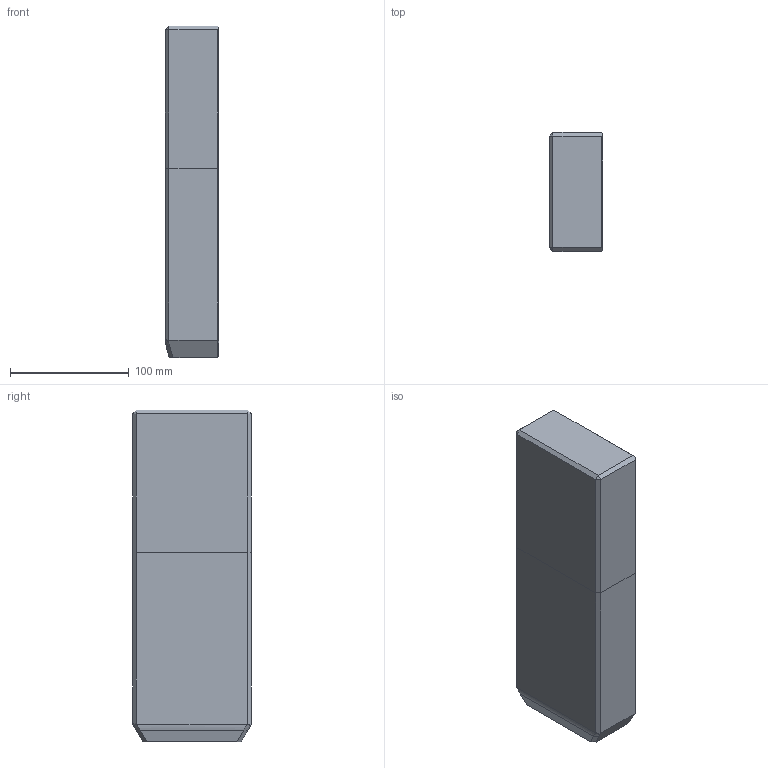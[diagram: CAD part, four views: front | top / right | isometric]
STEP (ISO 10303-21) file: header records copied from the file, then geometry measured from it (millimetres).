
FILE_DESCRIPTION((''),'2;1');
FILE_NAME('','2010-08-30T18:06:21+09:00',('misumi'),(''),'M/STEP i/f 1R2-14','CADmeister v5.1','');
FILE_SCHEMA(('AUTOMOTIVE_DESIGN'));
Length unit declared in the file: millimetre
Products named in the file (1): OGG100-280
Bounding box: 45 x 100 x 280 mm (x, y, z)
Volume: 1245199.8 mm3; surface area: 88435.3 mm2
Topology: 1 solids, 1 shells, 36 faces, 82 edges, 49 vertices
Faces by surface type: plane 28, bspline 5, cylinder 3
Entity records: 1884 total; most frequent: CARTESIAN_POINT 711, ORIENTED_EDGE 164, DIRECTION 134, COLOUR_RGB 85, CURVE_STYLE 84, PRESENTATION_STYLE_ASSIGNMENT 83, EDGE_CURVE 82, OVER_RIDING_STYLED_ITEM 82
